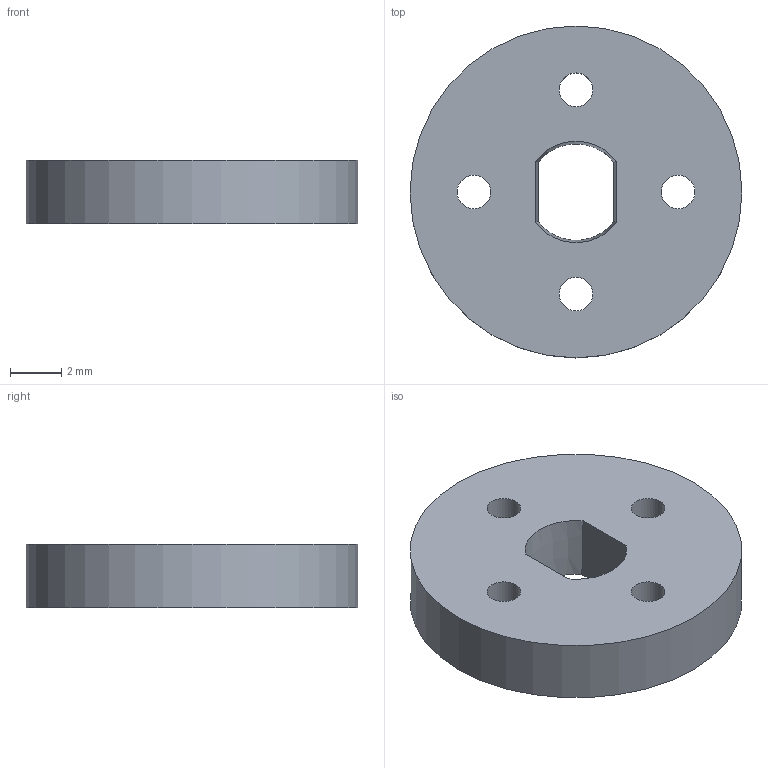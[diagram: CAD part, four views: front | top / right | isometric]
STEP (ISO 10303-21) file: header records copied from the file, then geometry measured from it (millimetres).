
FILE_DESCRIPTION(('Open CASCADE Model'),'2;1');
FILE_NAME('Open CASCADE Shape Model','2026-09-24T17:42:54',('Author'),( 'Open CASCADE'),'Open CASCADE STEP processor 7.8','Open CASCADE 7.8' ,'Unknown');
FILE_SCHEMA(('AUTOMOTIVE_DESIGN { 1 0 10303 214 1 1 1 1 }'));
Length unit declared in the file: millimetre
Products named in the file (1): Open CASCADE STEP translator 7.8 51
Bounding box: 13 x 13 x 2.5 mm (x, y, z)
Volume: 291.9 mm3; surface area: 406.6 mm2
Topology: 1 solids, 1 shells, 11 faces, 27 edges, 18 vertices
Faces by surface type: cylinder 5, plane 4, cone 2
Full cylindrical faces by diameter (mm): 1.32 x4, 13 x1
Entity records: 724 total; most frequent: CARTESIAN_POINT 147, DIRECTION 107, ORIENTED_EDGE 54, PCURVE 54, DEFINITIONAL_REPRESENTATION 54, LINE 33, VECTOR 33, AXIS2_PLACEMENT_3D 30
